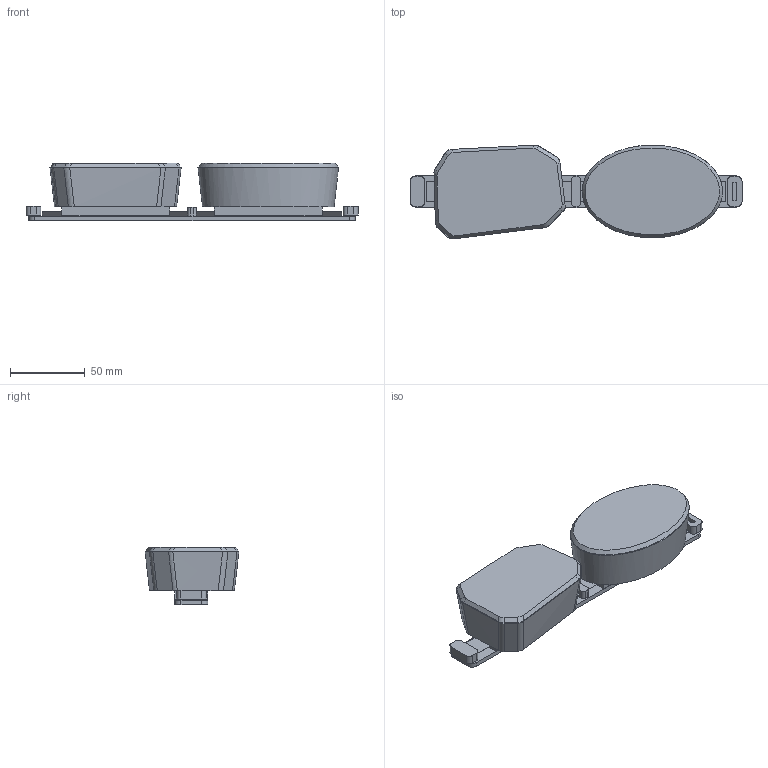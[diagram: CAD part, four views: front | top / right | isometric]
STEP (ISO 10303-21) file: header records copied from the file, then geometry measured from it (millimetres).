
FILE_DESCRIPTION(('Open CASCADE Model'),'2;1');
FILE_NAME('Open CASCADE Shape Model','2026-09-13T15:28:44',('Author'),( 'Open CASCADE'),'Open CASCADE STEP processor 7.9','build123d', 'Unknown');
FILE_SCHEMA(('AUTOMOTIVE_DESIGN { 1 0 10303 214 1 1 1 1 }'));
Length unit declared in the file: millimetre
Products named in the file (8): COMPOUND; SOLID
Assembly tree (7 placements, depth 2):
  COMPOUND
    SOLID
    SOLID
    SOLID
    SOLID
    SOLID
    SOLID
    SOLID
Bounding box: 222 x 62.74 x 38.4 mm (x, y, z)
Volume: 130640 mm3; surface area: 78831.8 mm2
Topology: 7 solids, 7 shells, 164 faces, 426 edges, 286 vertices
Faces by surface type: plane 80, bspline 51, cylinder 32, extrusion 1
Full cylindrical faces by diameter (mm): 4.8 x2, 5.6 x2
Entity records: 12520 total; most frequent: CARTESIAN_POINT 4139, DIRECTION 1440, VECTOR 913, LINE 912, ORIENTED_EDGE 852, PCURVE 852, DEFINITIONAL_REPRESENTATION 852, EDGE_CURVE 426
